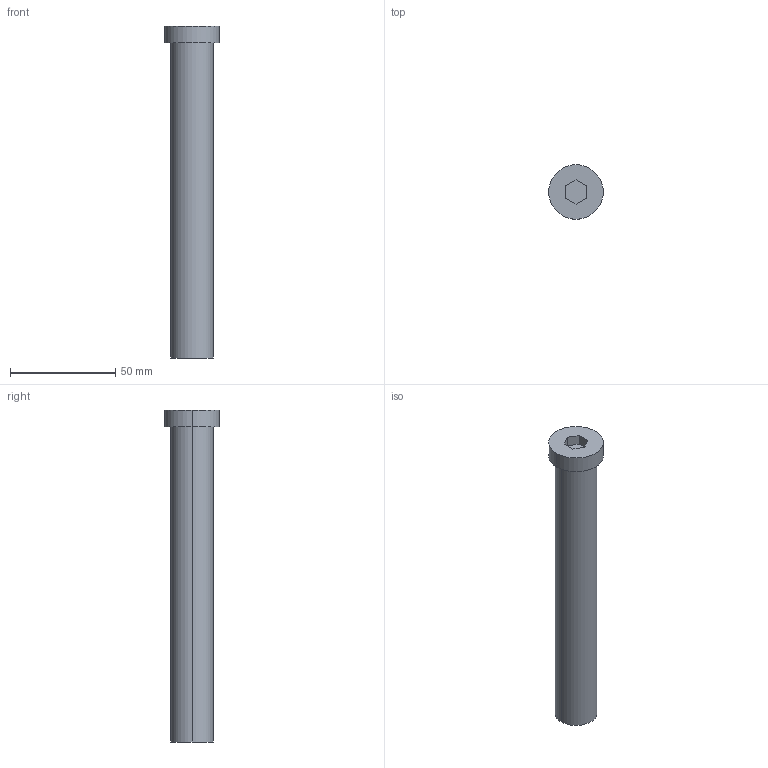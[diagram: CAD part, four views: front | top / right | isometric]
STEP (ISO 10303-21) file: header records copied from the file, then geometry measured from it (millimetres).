
FILE_DESCRIPTION (( 'STEP AP214' ), '1' );
FILE_NAME ('BruyRubio_TGH__20_x_150_-_M-14.STEP', '2019-12-22T23:40:01', ( '' ), ( '' ), 'SwSTEP 2.0', 'SolidWorks 2017', '' );
FILE_SCHEMA (( 'AUTOMOTIVE_DESIGN' ));
Length unit declared in the file: millimetre
Products named in the file (1): BruyRubio_TGH__20_x_150_-_M-14
Bounding box: 26 x 26 x 158 mm (x, y, z)
Volume: 47445.3 mm3; surface area: 14685.3 mm2
Topology: 2 solids, 2 shells, 27 faces, 58 edges, 37 vertices
Faces by surface type: plane 13, cylinder 12, cone 2
Entity records: 1070 total; most frequent: DIRECTION 136, CARTESIAN_POINT 121, ORIENTED_EDGE 112, EDGE_CURVE 56, AXIS2_PLACEMENT_3D 52, VERTEX_POINT 37, EDGE_LOOP 33, VECTOR 32
